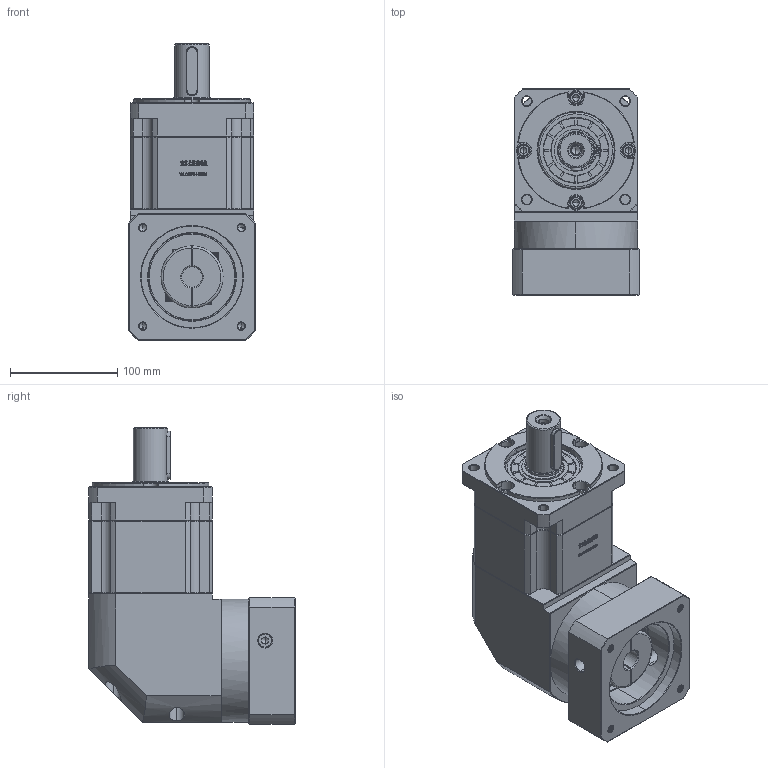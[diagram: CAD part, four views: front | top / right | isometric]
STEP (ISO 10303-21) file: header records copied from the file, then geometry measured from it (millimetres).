
FILE_DESCRIPTION (( 'STEP AP214' ), '1' );
FILE_NAME ('ZBR115A-D32-L2-19-95-130-M8.step', '2023-03-03T05:01:47', ( '' ), ( 'Microsoft' ), 'SwSTEP 2.0', 'SolidWorks 2016', '' );
FILE_SCHEMA (( 'AUTOMOTIVE_DESIGN' ));
Length unit declared in the file: millimetre
Products named in the file (1): ZBR115A-D32-L2-19-95-130-M8
Bounding box: 118 x 192.4 x 276.5 mm (x, y, z)
Volume: 3307055.4 mm3; surface area: 260010.5 mm2
Topology: 6 solids, 6 shells, 2981 faces, 7920 edges, 5085 vertices
Faces by surface type: plane 1559, bspline 606, cylinder 439, cone 369, torus 8
Entity records: 162069 total; most frequent: CARTESIAN_POINT 60059, ORIENTED_EDGE 15780, DIRECTION 11950, EDGE_CURVE 7890, VECTOR 5306, LINE 5306, VERTEX_POINT 5085, AXIS2_PLACEMENT_3D 3322
